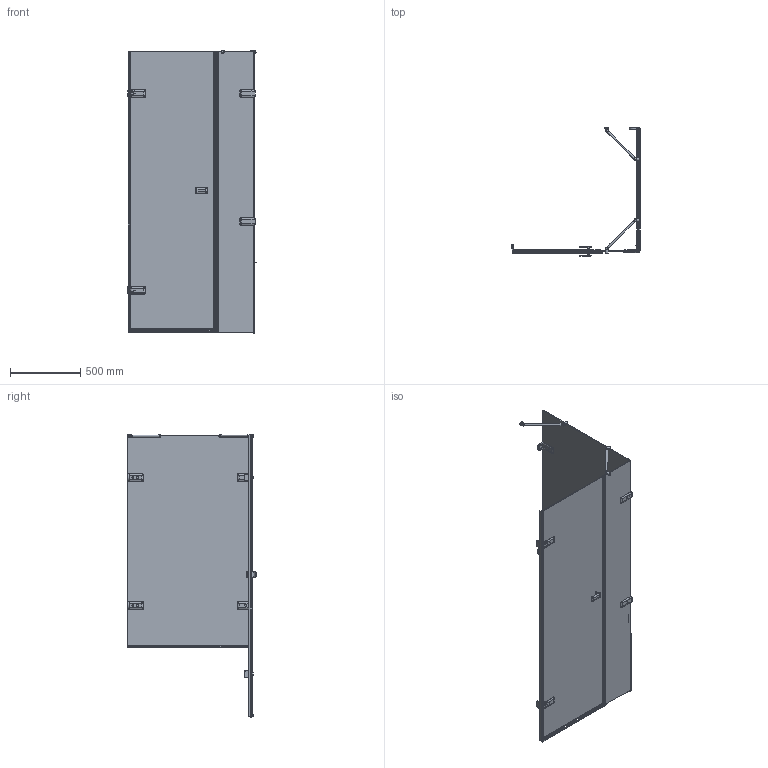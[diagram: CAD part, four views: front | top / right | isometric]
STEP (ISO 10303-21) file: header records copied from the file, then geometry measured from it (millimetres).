
FILE_DESCRIPTION(/* description */ (''),/* implementation_level */ '2;1');
FILE_NAME(/* name */ 'E:\Работа\Сергей\Душевые кабинки\! Работа\! 003AV_TREND\TREND SQUARE GK-863AV\TREND SQUARE GK-863AV левая модель\TREND SQUARE GK-863AV ЛЕВАЯ-3D.stp',/* time_stamp */ '2017-10-15T17:58:50+03:00',/* author */ ('PC'),/* organization */ (''),/* preprocessor_version */ 'ST-DEVELOPER v15.2',/* originating_system */ 'Autodesk Inventor 2014',/* authorisation */ '');
FILE_SCHEMA (('AUTOMOTIVE_DESIGN { 1 0 10303 214 3 1 1 }'));
Length unit declared in the file: millimetre
Products named in the file (1): TREND SQUARE GK-863AV ЛЕВАЯ-3D
Bounding box: 911.63 x 913.6 x 2018.49 mm (x, y, z)
Volume: 19940131.9 mm3; surface area: 6893685.1 mm2
Topology: 7 solids, 27 shells, 1288 faces, 3427 edges, 2243 vertices
Faces by surface type: plane 736, cylinder 370, bspline 102, torus 48, cone 16, sphere 16
Full cylindrical faces by diameter (mm): 4.134 x4, 4.917 x4, 5.2 x2, 11 x2, 12 x2, 13 x10, 15 x2, 16 x10, 20 x4, 26 x1, 28 x2, 28.5 x2, 40 x2
Entity records: 45758 total; most frequent: CARTESIAN_POINT 13425, ORIENTED_EDGE 6332, DIRECTION 6318, EDGE_CURVE 3164, LINE 2160, VECTOR 2160, AXIS2_PLACEMENT_3D 2079, VERTEX_POINT 2021
